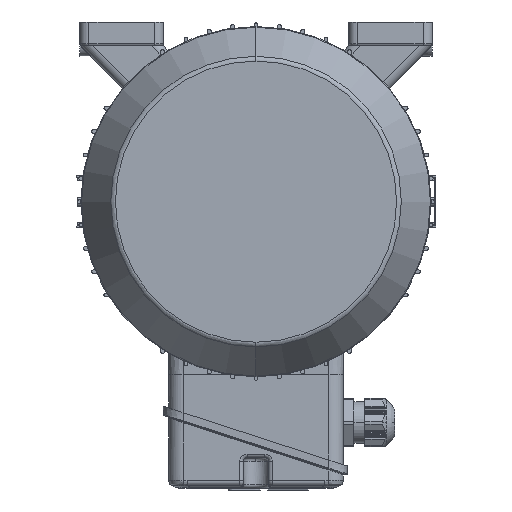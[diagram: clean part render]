
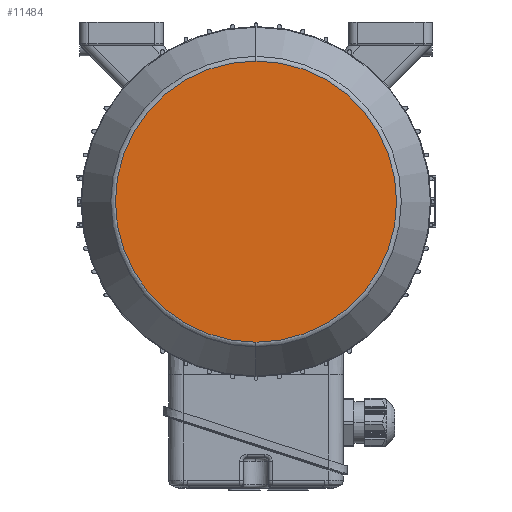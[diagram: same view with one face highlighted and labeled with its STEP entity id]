
A CAD part, left-side view. The second image highlights one B-rep face of the part: STEP entity #11484.
In plain terms, the highlighted planar face has unit normal (-1, 0, 0).
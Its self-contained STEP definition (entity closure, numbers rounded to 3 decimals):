
#95 = DIRECTION ( 'NONE',  ( 0., 0., -1. ) ) ;
#399 = CARTESIAN_POINT ( 'NONE',  ( -241.5, 0., -78.268 ) ) ;
#2333 = FACE_OUTER_BOUND ( 'NONE', #5862, .T. ) ;
#2458 = CIRCLE ( 'NONE', #7180, 78.268 ) ;
#5862 = EDGE_LOOP ( 'NONE', ( #10328, #10395 ) ) ;
#7180 = AXIS2_PLACEMENT_3D ( 'NONE', #30565, #33813, #14436 ) ;
#9156 = VERTEX_POINT ( 'NONE', #399 ) ;
#10328 = ORIENTED_EDGE ( 'NONE', *, *, #24354, .F. ) ;
#10395 = ORIENTED_EDGE ( 'NONE', *, *, #11161, .F. ) ;
#11161 = EDGE_CURVE ( 'NONE', #21165, #9156, #31167, .T. ) ;
#11484 = ADVANCED_FACE ( 'NONE', ( #2333 ), #37938, .T. ) ;
#14436 = DIRECTION ( 'NONE',  ( 0., 0., -1. ) ) ;
#18565 = DIRECTION ( 'NONE',  ( -1., 0., 0. ) ) ;
#19066 = DIRECTION ( 'NONE',  ( 1., 0., 0. ) ) ;
#21153 = CARTESIAN_POINT ( 'NONE',  ( -241.5, 0., 78.268 ) ) ;
#21165 = VERTEX_POINT ( 'NONE', #21153 ) ;
#22039 = CARTESIAN_POINT ( 'NONE',  ( -241.5, 0., 0. ) ) ;
#24354 = EDGE_CURVE ( 'NONE', #9156, #21165, #2458, .T. ) ;
#25049 = CARTESIAN_POINT ( 'NONE',  ( -241.5, 0., -78.268 ) ) ;
#30565 = CARTESIAN_POINT ( 'NONE',  ( -241.5, 0., 0. ) ) ;
#31100 = AXIS2_PLACEMENT_3D ( 'NONE', #22039, #19066, #95 ) ;
#31167 = CIRCLE ( 'NONE', #31100, 78.268 ) ;
#33813 = DIRECTION ( 'NONE',  ( 1., 0., 0. ) ) ;
#37325 = AXIS2_PLACEMENT_3D ( 'NONE', #25049, #18565, #41186 ) ;
#37938 = PLANE ( 'NONE',  #37325 ) ;
#41186 = DIRECTION ( 'NONE',  ( 0., 1., 0. ) ) ;
